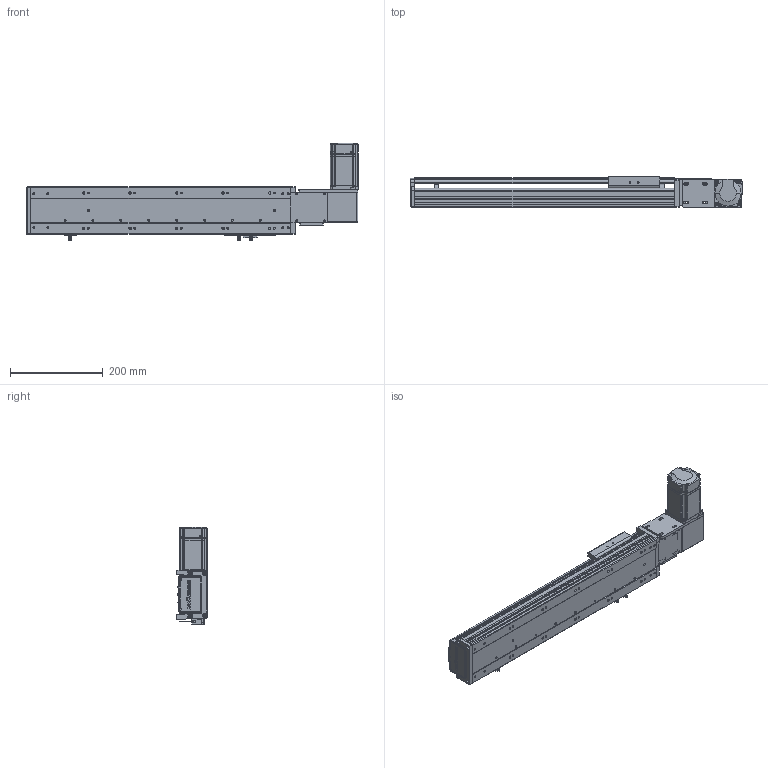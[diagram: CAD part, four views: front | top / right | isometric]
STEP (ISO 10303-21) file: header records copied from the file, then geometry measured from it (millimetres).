
FILE_DESCRIPTION (( 'STEP AP203' ), '1' );
FILE_NAME ('RY100-T-300-RK.SLDASM_350.step', '2024-04-25T08:21:37', ( '盈信电脑' ), ( '东莞市道滘镇水果街19号' ), 'SwSTEP 2.0', 'SolidWorks 2016', '' );
FILE_SCHEMA (( 'CONFIG_CONTROL_DESIGN' ));
Length unit declared in the file: millimetre
Products named in the file (15): RY100-T左右折电机安装板; 1; RY100-T肮祭謫臏賑輸; RY100-T肮祭謫翋盓傅釱; RY100-T翋肮祭謫裔啣2; RY80-T肮祭謫俋欶; RY100俋离覜茼え; RY100-T粣創揤踡裔; RY100綴裔啣; RY100-T-300-RK倰第菁釱_350; 侂狟200W萇儂; RY100-T-300-RK.SLDASM_350; RY100-T-300-RK倰第奻裔_350; 覜茼ん672; 滅袉蝶18-10
Assembly tree (18 placements, depth 3):
  RY100-T-300-RK.SLDASM_350
    RY100-T-300-RK倰第菁釱_350
    RY100-T-300-RK倰第奻裔_350
    RY100-T肮祭謫臏賑輸
    RY100綴裔啣
    覜茼ん672  x3
    RY100俋离覜茼え
    RY100-T肮祭謫翋盓傅釱
    RY100-T左右折电机安装板
    侂狟200W萇儂
      1
    RY100-T粣創揤踡裔
    滅袉蝶18-10  x2
    RY100-T翋肮祭謫裔啣2  x2
    RY80-T肮祭謫俋欶
Bounding box: 714 x 66 x 209.7 mm (x, y, z)
Volume: 1588221.4 mm3; surface area: 616980.1 mm2
Topology: 17 solids, 17 shells, 2117 faces, 5867 edges, 3811 vertices
Faces by surface type: plane 1181, cylinder 731, cone 127, bspline 78
Entity records: 67061 total; most frequent: CARTESIAN_POINT 16071, ORIENTED_EDGE 10470, DIRECTION 9959, EDGE_CURVE 5235, LINE 3451, VECTOR 3451, VERTEX_POINT 3447, AXIS2_PLACEMENT_3D 3254
